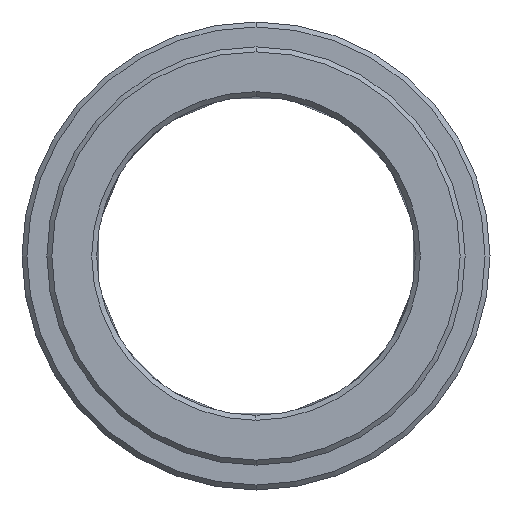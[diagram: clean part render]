
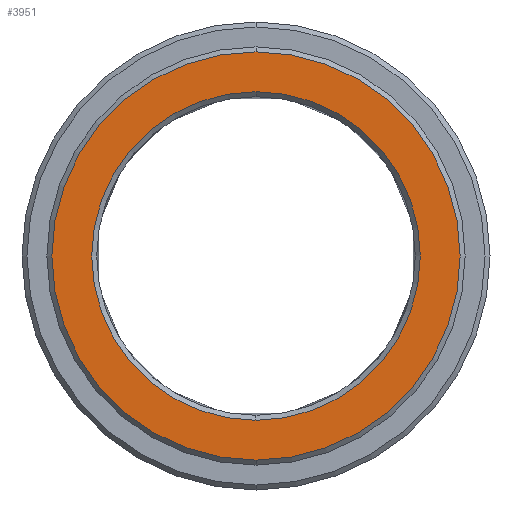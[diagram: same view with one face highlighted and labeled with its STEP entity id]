
A CAD part, left-side view. The second image highlights one B-rep face of the part: STEP entity #3951.
In plain terms, the highlighted planar face has unit normal (-1, 0, 0).
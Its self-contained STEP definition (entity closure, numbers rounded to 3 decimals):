
#2506=CARTESIAN_POINT('',(-8.,0.,
0.));
#2507=DIRECTION('',(1.,0.,0.));
#2508=DIRECTION('',(0.,0.,1.));
#2509=AXIS2_PLACEMENT_3D('',#2506,#2507,#2508);
#2511=CARTESIAN_POINT('',(-8.,0.,
0.));
#2512=DIRECTION('',(1.,0.,0.));
#2513=DIRECTION('',(0.,0.,-1.));
#2514=AXIS2_PLACEMENT_3D('',#2511,#2512,#2513);
#2516=CARTESIAN_POINT('',(-8.,0.,0.));
#2517=DIRECTION('',(1.,0.,0.));
#2518=DIRECTION('',(0.,0.,1.));
#2519=AXIS2_PLACEMENT_3D('',#2516,#2517,#2518);
#2521=CARTESIAN_POINT('',(-8.,0.,0.));
#2522=DIRECTION('',(1.,0.,0.));
#2523=DIRECTION('',(0.,0.,-1.));
#2524=AXIS2_PLACEMENT_3D('',#2521,#2522,#2523);
#2714=CARTESIAN_POINT('',(-8.,0.,16.5));
#2715=CARTESIAN_POINT('',(-8.,0.,-16.5));
#2716=VERTEX_POINT('',#2714);
#2717=VERTEX_POINT('',#2715);
#2722=CARTESIAN_POINT('',(-8.,0.,20.5));
#2723=CARTESIAN_POINT('',(-8.,0.,
-20.5));
#2724=VERTEX_POINT('',#2722);
#2725=VERTEX_POINT('',#2723);
#3936=CARTESIAN_POINT('',(-8.,0.,0.));
#3937=DIRECTION('',(1.,0.,0.));
#3938=DIRECTION('',(0.,0.,1.));
#3939=AXIS2_PLACEMENT_3D('',#3936,#3937,#3938);
#3940=PLANE('',#3939);
#3941=ORIENTED_EDGE('',*,*,#3903,.T.);
#3942=ORIENTED_EDGE('',*,*,#3918,.T.);
#3943=EDGE_LOOP('',(#3941,#3942));
#3944=FACE_OUTER_BOUND('',#3943,.F.);
#3946=ORIENTED_EDGE('',*,*,#3945,.F.);
#3948=ORIENTED_EDGE('',*,*,#3947,.F.);
#3949=EDGE_LOOP('',(#3946,#3948));
#3950=FACE_BOUND('',#3949,.F.);
#3951=ADVANCED_FACE('',(#3944,#3950),#3940,.F.);
#2510=CIRCLE('',#2509,20.5);
#2515=CIRCLE('',#2514,20.5);
#2520=CIRCLE('',#2519,16.5);
#2525=CIRCLE('',#2524,16.5);
#3903=EDGE_CURVE('',#2724,#2725,#2510,.T.);
#3918=EDGE_CURVE('',#2725,#2724,#2515,.T.);
#3945=EDGE_CURVE('',#2716,#2717,#2520,.T.);
#3947=EDGE_CURVE('',#2717,#2716,#2525,.T.);
